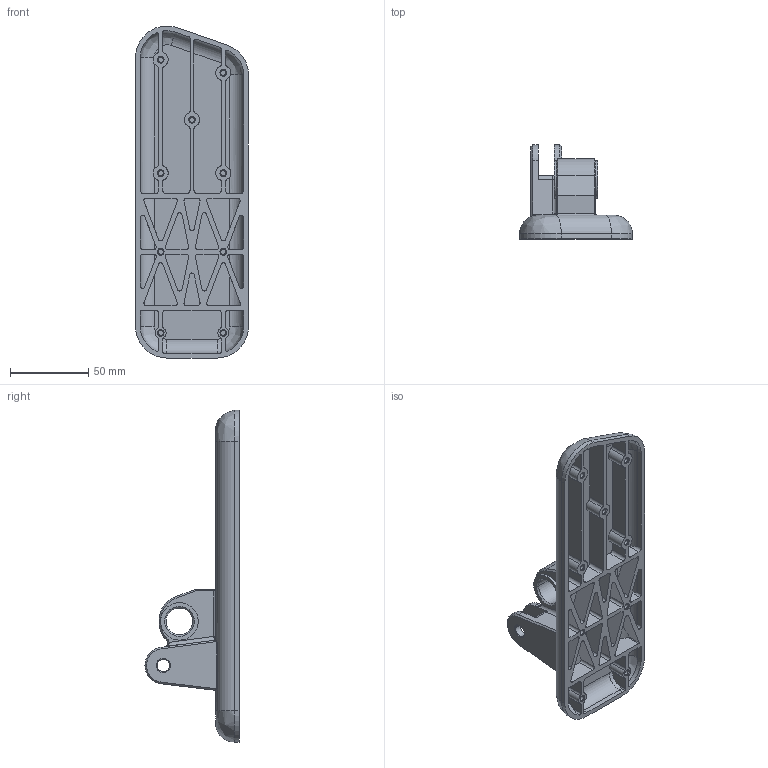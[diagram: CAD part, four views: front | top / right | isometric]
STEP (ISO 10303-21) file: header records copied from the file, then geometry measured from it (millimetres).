
FILE_DESCRIPTION((''),'2;1');
FILE_NAME('KD-D-501L','2025-07-12T16:46:07',('Administrator'),(''),'CREO PARAMETRIC BY PTC INC, 2022073','CREO PARAMETRIC BY PTC INC, 2022073','');
FILE_SCHEMA(('CONFIG_CONTROL_DESIGN'));
Length unit declared in the file: millimetre
Products named in the file (1): KD-D-501L
Bounding box: 72 x 60 x 211.88 mm (x, y, z)
Volume: 132507.5 mm3; surface area: 66606 mm2
Topology: 1 solids, 1 shells, 395 faces, 1071 edges, 707 vertices
Faces by surface type: cylinder 190, plane 151, cone 34, bspline 18, extrusion 1, torus 1
Entity records: 13496 total; most frequent: CARTESIAN_POINT 3470, ORIENTED_EDGE 2140, DIRECTION 2054, EDGE_CURVE 1070, AXIS2_PLACEMENT_3D 755, VERTEX_POINT 707, VECTOR 544, LINE 543
